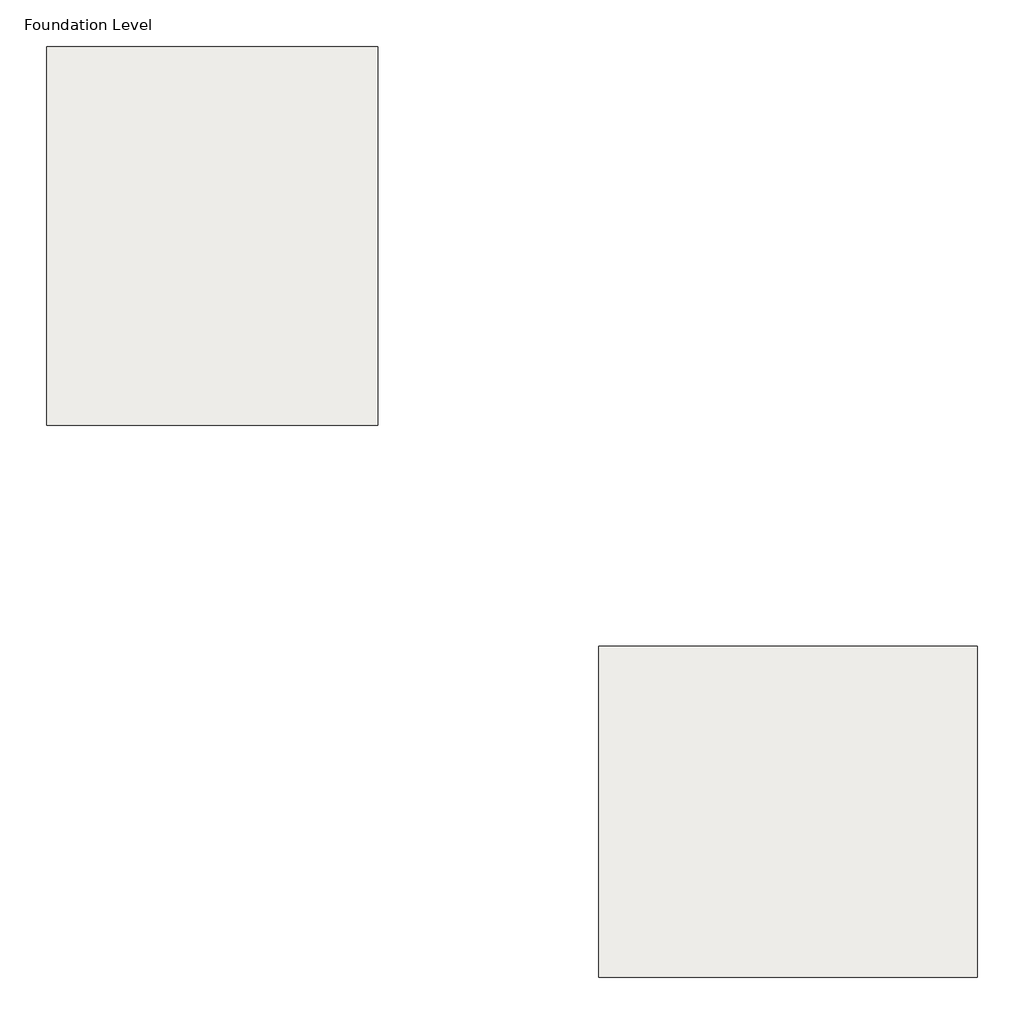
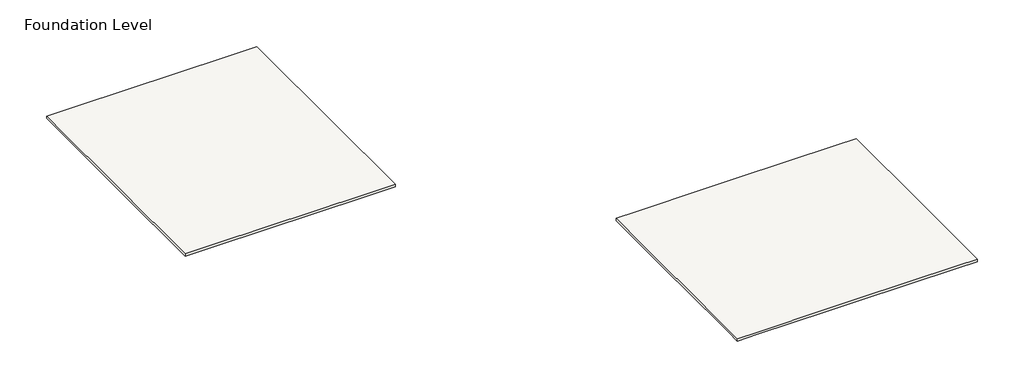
# One storey: 2 slabs.
"""IFC4 building model written with IfcOpenShell, lengths in millimetres."""

import ifcopenshell
import ifcopenshell.guid

model = None  # the IFC model being written
_history = None  # IfcOwnerHistory: only IFC2X3 demands one
_inside = {}  # id of a spatial element -> (the spatial element, [elements in it])
_under = {}  # id of a project, library or spatial element -> (it, [spatial elements below it])
_declared = {}  # id of a project -> (the project, [libraries it declares])
_typed = {}  # id of a type object -> (the type object, [elements of that type])
_made_of = {}  # id of a material, layer set ... -> (it, [elements and type objects made of it])


def new_model(schema):
    """Start an empty IFC model of exactly this schema.

    Asked for "IFC4X3", IfcOpenShell would pick the latest addendum, in which some entities
    have other attributes; the version numbers below select the first issue.
    IFC2X3 requires an IfcOwnerHistory on every rooted entity: one is made here for all.
    """
    global model, _history
    if schema == "IFC4X3":
        model = ifcopenshell.file(schema_version=(4, 3, 0, 0))
    else:
        model = ifcopenshell.file(schema=schema)
    _inside.clear()
    _under.clear()
    _declared.clear()
    _typed.clear()
    _made_of.clear()
    _history = None
    if model.schema == "IFC2X3":
        org = make("IfcOrganization", Name="unknown")
        user = make(
            "IfcPersonAndOrganization",
            ThePerson=make("IfcPerson", FamilyName="unknown"),
            TheOrganization=org,
        )
        app = make(
            "IfcApplication",
            ApplicationDeveloper=org,
            Version="unknown",
            ApplicationFullName="unknown",
            ApplicationIdentifier="unknown",
        )
        _history = make(
            "IfcOwnerHistory",
            OwningUser=user,
            OwningApplication=app,
            ChangeAction="ADDED",
            CreationDate=0,
        )
    return model


def make(cls, **values):
    """One entity of the class cls with the attributes given. An attribute that is None is left unset."""
    return model.create_entity(
        cls, **{name: value for name, value in values.items() if value is not None}
    )


def rooted(cls, **values):
    """An entity with a GlobalId (a new one), such as an element, a storey or a relation."""
    return make(cls, GlobalId=ifcopenshell.guid.new(), OwnerHistory=_history, **values)


def si_unit(unit_type, name, prefix=None):
    """IfcSIUnit, for example si_unit("LENGTHUNIT", "METRE", prefix="MILLI")."""
    return make("IfcSIUnit", UnitType=unit_type, Prefix=prefix, Name=name)


def assignment(units):
    """IfcUnitAssignment: the units of a project."""
    return None if units is None else make("IfcUnitAssignment", Units=units)


def point(xyz):
    """IfcCartesianPoint."""
    return None if xyz is None else make("IfcCartesianPoint", Coordinates=xyz)


def direction(xyz):
    """IfcDirection."""
    return None if xyz is None else make("IfcDirection", DirectionRatios=xyz)


def frame(location, z_axis=None, x_axis=None):
    """IfcAxis2Placement3D, a coordinate frame: its origin and axes. An axis left out is left unset."""
    return make(
        "IfcAxis2Placement3D",
        Location=point(location),
        Axis=direction(z_axis),
        RefDirection=direction(x_axis),
    )


def origin():
    """The frame at (0, 0, 0) with its axes left unset."""
    return frame((0.0, 0.0, 0.0))


def place(relative_to, where):
    """IfcLocalPlacement: puts the frame where relative to a parent placement (None: the world)."""
    return make(
        "IfcLocalPlacement", PlacementRelTo=relative_to, RelativePlacement=where
    )


def context(
    kind, dimensions, precision=None, world=None, true_north=None, identifier=None
):
    """IfcGeometricRepresentationContext, for example the 3D "Model" context."""
    return make(
        "IfcGeometricRepresentationContext",
        ContextIdentifier=identifier,
        ContextType=kind,
        CoordinateSpaceDimension=dimensions,
        Precision=precision,
        WorldCoordinateSystem=world,
        TrueNorth=true_north,
    )


def project(units=None, contexts=None):
    """IfcProject with its units and contexts."""
    return rooted(
        "IfcProject",
        Name="project",
        RepresentationContexts=contexts,
        UnitsInContext=assignment(units),
    )


def spatial(cls, under=None, at=None, **own):
    """A site, building, storey or space (cls), placed at a placement, below another one or the project."""
    s = rooted(cls, ObjectPlacement=at, **own)
    if under is not None:
        _under.setdefault(under.id(), (under, []))[1].append(s)
    return s


def faces_of(points, faces, orient=None, outer=None):
    """IfcFace entities. A face is a list of loops; a loop is a list of indices into points, from 0.

    orient and outer hold one flag for each loop. By default every Orientation is true, the
    first loop of a face is its IfcFaceOuterBound and the others are IfcFaceBound.
    """
    made = []
    for i, loops in enumerate(faces):
        bounds = []
        for j, loop in enumerate(loops):
            is_outer = j == 0 if outer is None else outer[i][j]
            bounds.append(
                make(
                    "IfcFaceOuterBound" if is_outer else "IfcFaceBound",
                    Bound=make("IfcPolyLoop", Polygon=[points[k] for k in loop]),
                    Orientation=True if orient is None else orient[i][j],
                )
            )
        made.append(make("IfcFace", Bounds=bounds))
    return made


def faceted_brep(points, faces, orient=None, outer=None, voids=None):
    """IfcFacetedBrep: a solid bounded by flat faces; with voids (closed shells), ...WithVoids."""
    shared = [point(p) for p in points]
    hull = make("IfcClosedShell", CfsFaces=faces_of(shared, faces, orient, outer))
    if voids is None:
        return make("IfcFacetedBrep", Outer=hull)
    return make(
        "IfcFacetedBrepWithVoids",
        Outer=hull,
        Voids=[
            make(cls, CfsFaces=faces_of(shared, fs, o, b)) for cls, fs, o, b in voids
        ],
    )


def shape(context_of_items, identifier, shape_type, items):
    """IfcShapeRepresentation: the items that make up one representation, for example the "Body"."""
    return make(
        "IfcShapeRepresentation",
        ContextOfItems=context_of_items,
        RepresentationIdentifier=identifier,
        RepresentationType=shape_type,
        Items=items,
    )


def made_of(thing, what):
    """Note that an element or type object is made of a material, layer set ...; save() writes the relation."""
    if what is not None:
        _made_of.setdefault(what.id(), (what, []))[1].append(thing)
    return thing


def element(
    cls,
    number,
    at=None,
    inside=None,
    cuts=None,
    type_object=None,
    material=None,
    context=None,
    identifier="Body",
    shape_type=None,
    held_by="IfcProductDefinitionShape",
    body=None,
    shapes=None,
    **own,
):
    """One element of the class cls, such as IfcWall. Its Tag is "e" and its number.

    at: its placement. inside: the storey or other place that contains it. cuts: it is an
    opening in that element (IfcRelVoidsElement). A single representation is given by context,
    identifier, shape_type and body (its items); several are given by shapes. held_by: the class
    of the entity that holds the representations. save() writes the other relations.
    """
    e = rooted(cls, Tag="e%d" % number, ObjectPlacement=at, **own)
    if body is not None:
        shapes = [shape(context, identifier, shape_type, body)]
    if shapes is not None:
        e.Representation = make(held_by, Representations=shapes)
    if inside is not None:
        _inside.setdefault(inside.id(), (inside, []))[1].append(e)
    if cuts is not None:
        rooted(
            "IfcRelVoidsElement", RelatingBuildingElement=cuts, RelatedOpeningElement=e
        )
    if type_object is not None:
        _typed.setdefault(type_object.id(), (type_object, []))[1].append(e)
    return made_of(e, material)


def aggregate(whole, parts):
    """IfcRelAggregates: a whole, such as a stair, and the parts it consists of."""
    return rooted("IfcRelAggregates", RelatingObject=whole, RelatedObjects=parts)


def save(model, path):
    """Write the relations noted so far, then the file.

    IfcRelAggregates (storeys below a building ...), IfcRelContainedInSpatialStructure (elements
    in a storey), IfcRelDefinesByType, IfcRelAssociatesMaterial and IfcRelDeclares: one each for
    every whole, place, type object, material and project.
    """
    for whole, parts in _under.values():
        aggregate(whole, parts)
    for where, things in _inside.values():
        rooted(
            "IfcRelContainedInSpatialStructure",
            RelatedElements=things,
            RelatingStructure=where,
        )
    for kind, things in _typed.values():
        rooted("IfcRelDefinesByType", RelatedObjects=things, RelatingType=kind)
    for what, things in _made_of.values():
        rooted("IfcRelAssociatesMaterial", RelatedObjects=things, RelatingMaterial=what)
    for by, libraries in _declared.values():
        rooted("IfcRelDeclares", RelatingContext=by, RelatedDefinitions=libraries)
    model.write(path)


model = new_model("IFC4")

# Units and contexts
model_context = context("Model", 3, world=origin())
ifc_project = project(units=[si_unit("LENGTHUNIT", "METRE", prefix="MILLI")], contexts=[model_context])

# Site, building, storey
site = spatial("IfcSite", under=ifc_project)
building = spatial("IfcBuilding", under=site)
storey = spatial("IfcBuildingStorey", under=building, Name="Foundation Level", Elevation=-1828.8)

# Slabs
placement = place(None, origin())
element("IfcSlab", 1, ObjectType="6\" Foundation Slab", at=placement, inside=storey, context=model_context, shape_type="Brep", body=[
    faceted_brep([(-26198.2357458, 10612.3034229, -1981.2), (-26198.2357458, 9393.1034229, -1981.2), (-26198.2357458, 3297.1034229, -1981.2), (-26198.2357458, 1468.3034229, -1981.2), (-26198.2357458, -2798.8965771, -1981.2), (-26198.2357458, -4018.0965771, -1981.2), (-27112.6357458, -4018.0965771, -1981.2), (-31989.4357458, -4018.0965771, -1981.2), (-33208.6357458, -4018.0965771, -1981.2), (-38085.4357458, -4018.0965771, -1981.2), (-38999.8357458, -4018.0965771, -1981.2), (-38999.8357458, -2798.8965771, -1981.2), (-38999.8357458, 1468.3034229, -1981.2), (-38999.8357458, 3297.1034229, -1981.2), (-38999.8357458, 9393.1034229, -1981.2), (-38999.8357458, 10612.3034229, -1981.2), (-38085.4357458, 10612.3034229, -1981.2), (-33208.6357458, 10612.3034229, -1981.2), (-31989.4357458, 10612.3034229, -1981.2), (-27112.6357458, 10612.3034229, -1981.2), (-26198.2357458, 10612.3034229, -1828.8), (-27112.6357458, 10612.3034229, -1828.8), (-31989.4357458, 10612.3034229, -1828.8), (-33208.6357458, 10612.3034229, -1828.8), (-38085.4357458, 10612.3034229, -1828.8), (-38999.8357458, 10612.3034229, -1828.8), (-38999.8357458, 9393.1034229, -1828.8), (-38999.8357458, 3297.1034229, -1828.8), (-38999.8357458, 1468.3034229, -1828.8), (-38999.8357458, -2798.8965771, -1828.8), (-38999.8357458, -4018.0965771, -1828.8), (-38085.4357458, -4018.0965771, -1828.8), (-33208.6357458, -4018.0965771, -1828.8), (-31989.4357458, -4018.0965771, -1828.8), (-27112.6357458, -4018.0965771, -1828.8), (-26198.2357458, -4018.0965771, -1828.8), (-26198.2357458, -2798.8965771, -1828.8), (-26198.2357458, 1468.3034229, -1828.8), (-26198.2357458, 3297.1034229, -1828.8), (-26198.2357458, 9393.1034229, -1828.8)], [[[0, 1, 2, 3, 4, 5, 6, 7, 8, 9, 10, 11, 12, 13, 14, 15, 16, 17, 18, 19]], [[20, 21, 22, 23, 24, 25, 26, 27, 28, 29, 30, 31, 32, 33, 34, 35, 36, 37, 38, 39]], [[5, 4, 3, 2, 1, 0, 20, 39, 38, 37, 36, 35]], [[10, 9, 8, 7, 6, 5, 35, 34, 33, 32, 31, 30]], [[15, 14, 13, 12, 11, 10, 30, 29, 28, 27, 26, 25]], [[0, 19, 18, 17, 16, 15, 25, 24, 23, 22, 21, 20]]]),
])
element("IfcSlab", 2, ObjectType="6\" Foundation Slab", at=placement, inside=storey, context=model_context, shape_type="Brep", body=[
    faceted_brep([(-3033.4357458, -12552.4965771, -1981.2), (-3033.4357458, -13466.8965771, -1981.2), (-3033.4357458, -18343.6965771, -1981.2), (-3033.4357458, -19562.8965771, -1981.2), (-3033.4357458, -24439.6965771, -1981.2), (-3033.4357458, -25354.0965771, -1981.2), (-4252.6357458, -25354.0965771, -1981.2), (-10348.6357458, -25354.0965771, -1981.2), (-12177.4357458, -25354.0965771, -1981.2), (-16444.6357458, -25354.0965771, -1981.2), (-17663.8357458, -25354.0965771, -1981.2), (-17663.8357458, -24439.6965771, -1981.2), (-17663.8357458, -19562.8965771, -1981.2), (-17663.8357458, -18343.6965771, -1981.2), (-17663.8357458, -13466.8965771, -1981.2), (-17663.8357458, -12552.4965771, -1981.2), (-16444.6357458, -12552.4965771, -1981.2), (-12177.4357458, -12552.4965771, -1981.2), (-10348.6357458, -12552.4965771, -1981.2), (-4252.6357458, -12552.4965771, -1981.2), (-3033.4357458, -12552.4965771, -1828.8), (-4252.6357458, -12552.4965771, -1828.8), (-10348.6357458, -12552.4965771, -1828.8), (-12177.4357458, -12552.4965771, -1828.8), (-16444.6357458, -12552.4965771, -1828.8), (-17663.8357458, -12552.4965771, -1828.8), (-17663.8357458, -13466.8965771, -1828.8), (-17663.8357458, -18343.6965771, -1828.8), (-17663.8357458, -19562.8965771, -1828.8), (-17663.8357458, -24439.6965771, -1828.8), (-17663.8357458, -25354.0965771, -1828.8), (-16444.6357458, -25354.0965771, -1828.8), (-12177.4357458, -25354.0965771, -1828.8), (-10348.6357458, -25354.0965771, -1828.8), (-4252.6357458, -25354.0965771, -1828.8), (-3033.4357458, -25354.0965771, -1828.8), (-3033.4357458, -24439.6965771, -1828.8), (-3033.4357458, -19562.8965771, -1828.8), (-3033.4357458, -18343.6965771, -1828.8), (-3033.4357458, -13466.8965771, -1828.8)], [[[0, 1, 2, 3, 4, 5, 6, 7, 8, 9, 10, 11, 12, 13, 14, 15, 16, 17, 18, 19]], [[20, 21, 22, 23, 24, 25, 26, 27, 28, 29, 30, 31, 32, 33, 34, 35, 36, 37, 38, 39]], [[0, 19, 18, 17, 16, 15, 25, 24, 23, 22, 21, 20]], [[15, 14, 13, 12, 11, 10, 30, 29, 28, 27, 26, 25]], [[10, 9, 8, 7, 6, 5, 35, 34, 33, 32, 31, 30]], [[5, 4, 3, 2, 1, 0, 20, 39, 38, 37, 36, 35]]]),
])

save(model, "model.ifc")
